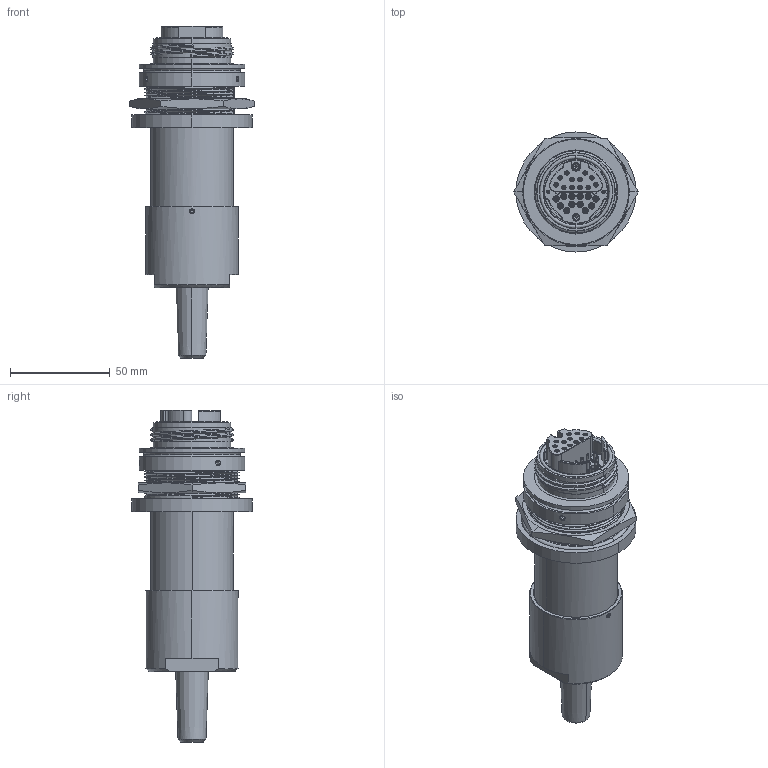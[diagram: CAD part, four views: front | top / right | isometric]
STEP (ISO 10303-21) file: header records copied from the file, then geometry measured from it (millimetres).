
FILE_DESCRIPTION (( 'STEP AP214' ), '1' );
FILE_NAME ('QFOCA3-RMFX-24X-X-SX.STEP', '2025-08-05T21:39:41', ( '' ), ( '' ), 'SwSTEP 2.0', 'SolidWorks 2024', '' );
FILE_SCHEMA (( 'AUTOMOTIVE_DESIGN' ));
Length unit declared in the file: inch
Products named in the file (1): QFOCA3-RMFX-24X-X-SX
Bounding box: 62.33 x 60.07 x 166.04 mm (x, y, z)
Volume: 204407.3 mm3; surface area: 46434.3 mm2
Topology: 18 solids, 36 shells, 1341 faces, 3071 edges, 1850 vertices
Faces by surface type: cylinder 466, cone 340, plane 248, torus 246, bspline 41
Entity records: 55112 total; most frequent: CARTESIAN_POINT 24344, DIRECTION 6909, ORIENTED_EDGE 6142, EDGE_CURVE 3071, AXIS2_PLACEMENT_3D 2915, VERTEX_POINT 1850, CIRCLE 1614, EDGE_LOOP 1457
